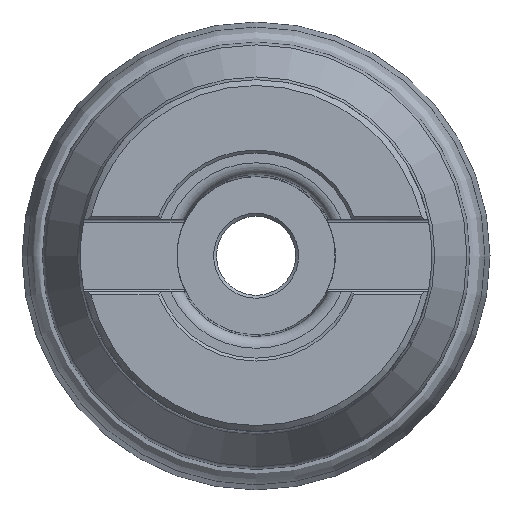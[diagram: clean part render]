
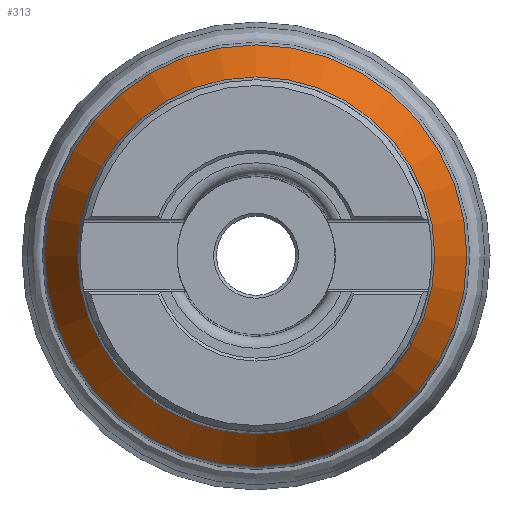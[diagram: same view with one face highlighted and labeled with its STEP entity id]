
A CAD part, top view. The second image highlights one B-rep face of the part: STEP entity #313.
In plain terms, the highlighted conical face has half-angle 28.585 degrees and reference radius 30 mm.
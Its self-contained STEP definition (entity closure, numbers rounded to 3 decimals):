
#175=CONICAL_SURFACE('',#1055,30.,28.585);
#313=ADVANCED_FACE('',(#399,#400),#175,.T.);
#399=FACE_BOUND('',#481,.T.);
#400=FACE_BOUND('',#482,.T.);
#481=EDGE_LOOP('',(#610));
#482=EDGE_LOOP('',(#611));
#610=ORIENTED_EDGE('',*,*,#900,.T.);
#611=ORIENTED_EDGE('',*,*,#901,.T.);
#814=VERTEX_POINT('',#1577);
#815=VERTEX_POINT('',#1579);
#900=EDGE_CURVE('',#814,#814,#986,.T.);
#901=EDGE_CURVE('',#815,#815,#987,.T.);
#986=CIRCLE('',#1053,30.488);
#987=CIRCLE('',#1054,35.975);
#1053=AXIS2_PLACEMENT_3D('',#1576,#1213,#1214);
#1054=AXIS2_PLACEMENT_3D('',#1578,#1215,#1216);
#1055=AXIS2_PLACEMENT_3D('',#1580,#1217,#1218);
#1213=DIRECTION('',(0.,0.,-1.));
#1214=DIRECTION('',(-1.,0.,0.));
#1215=DIRECTION('',(0.,0.,1.));
#1216=DIRECTION('',(1.,0.,0.));
#1217=DIRECTION('',(0.,0.,-1.));
#1218=DIRECTION('',(1.,0.,0.));
#1576=CARTESIAN_POINT('',(0.,0.,-12.895));
#1577=CARTESIAN_POINT('',(-30.488,0.,-12.895));
#1578=CARTESIAN_POINT('',(0.,0.,-22.967));
#1579=CARTESIAN_POINT('',(35.975,0.,-22.967));
#1580=CARTESIAN_POINT('',(0.,0.,-12.));
